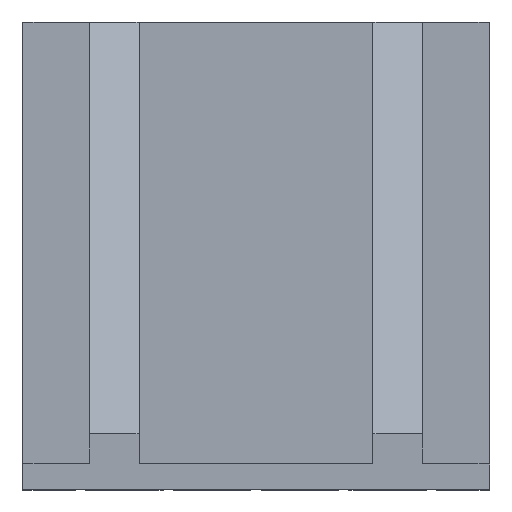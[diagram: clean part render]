
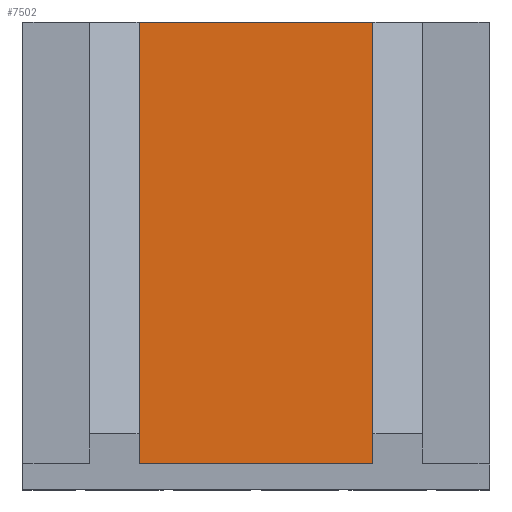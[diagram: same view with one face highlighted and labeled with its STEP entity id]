
A CAD part, top view. The second image highlights one B-rep face of the part: STEP entity #7502.
In plain terms, the highlighted planar face has unit normal (0, 0, 1).
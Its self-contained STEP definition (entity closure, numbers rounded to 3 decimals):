
#1344=DIRECTION('',(1.,0.,0.));
#1345=VECTOR('',#1344,400.);
#1346=CARTESIAN_POINT('',(-200.,45.,75.));
#1347=LINE('',#1346,#1345);
#1492=DIRECTION('',(0.,-1.,0.));
#1493=VECTOR('',#1492,755.);
#1494=CARTESIAN_POINT('',(200.,800.,75.));
#1495=LINE('',#1494,#1493);
#1496=DIRECTION('',(0.,-1.,0.));
#1497=VECTOR('',#1496,755.);
#1498=CARTESIAN_POINT('',(-200.,800.,75.));
#1499=LINE('',#1498,#1497);
#1500=DIRECTION('',(1.,0.,0.));
#1501=VECTOR('',#1500,400.);
#1502=CARTESIAN_POINT('',(-200.,800.,75.));
#1503=LINE('',#1502,#1501);
#4453=CARTESIAN_POINT('',(-200.,800.,75.));
#4454=CARTESIAN_POINT('',(-200.,45.,75.));
#4455=VERTEX_POINT('',#4453);
#4456=VERTEX_POINT('',#4454);
#4479=CARTESIAN_POINT('',(200.,800.,75.));
#4480=VERTEX_POINT('',#4479);
#4483=CARTESIAN_POINT('',(200.,45.,75.));
#4484=VERTEX_POINT('',#4483);
#7490=CARTESIAN_POINT('',(-400.,800.,75.));
#7491=DIRECTION('',(0.,0.,1.));
#7492=DIRECTION('',(0.,-1.,0.));
#7493=AXIS2_PLACEMENT_3D('',#7490,#7491,#7492);
#7494=PLANE('',#7493);
#7495=ORIENTED_EDGE('',*,*,#7410,.T.);
#7496=ORIENTED_EDGE('',*,*,#7330,.F.);
#7498=ORIENTED_EDGE('',*,*,#7497,.F.);
#7499=ORIENTED_EDGE('',*,*,#6222,.T.);
#7500=EDGE_LOOP('',(#7495,#7496,#7498,#7499));
#7501=FACE_OUTER_BOUND('',#7500,.F.);
#7502=ADVANCED_FACE('',(#7501),#7494,.T.);
#6222=EDGE_CURVE('',#4455,#4480,#1503,.T.);
#7330=EDGE_CURVE('',#4456,#4484,#1347,.T.);
#7410=EDGE_CURVE('',#4480,#4484,#1495,.T.);
#7497=EDGE_CURVE('',#4455,#4456,#1499,.T.);
